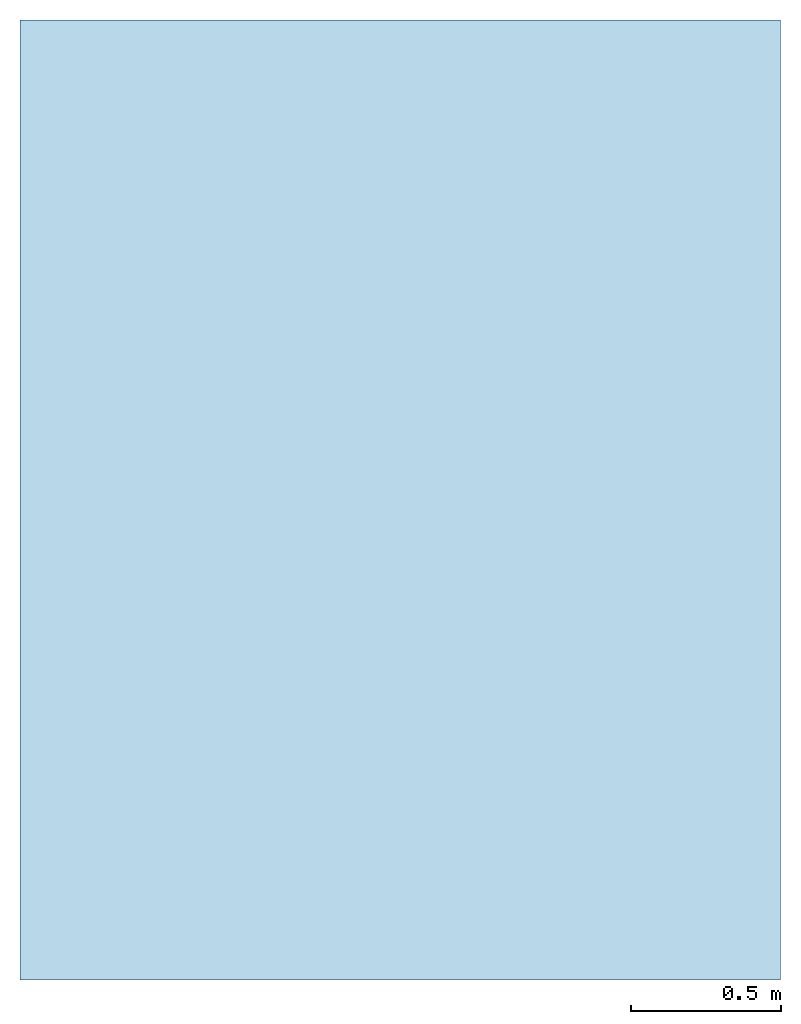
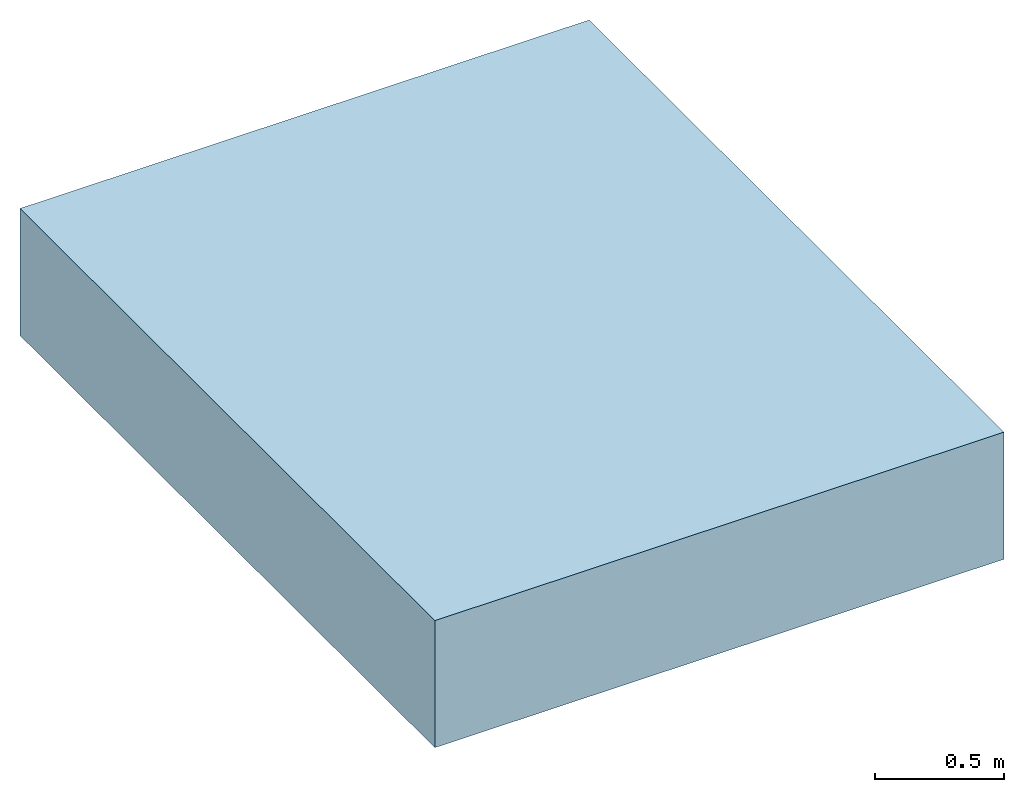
# One storey: 1 slab.
"""IFC2X3 building model written with IfcOpenShell, lengths in millimetres."""

from ifc_helpers import new_model, entity, si_unit, converted_unit, derived_unit, money_unit, direction, frame, origin_with_axes, place, context, subcontext, project, spatial, faceted_brep, material, type_object, element, save


model = new_model("IFC2X3")

# Units and contexts
model_context = context("Model", 3, precision=0.01, world=origin_with_axes(), true_north=direction((0.0, 1.0)))
body_context = subcontext(model_context, "Body", "Model", "MODEL_VIEW")
ifc_project = project(units=[si_unit("LENGTHUNIT", "METRE", prefix="MILLI"), si_unit("AREAUNIT", "SQUARE_METRE"), si_unit("VOLUMEUNIT", "CUBIC_METRE"), converted_unit("PLANEANGLEUNIT", "DEGREE", entity("IfcPlaneAngleMeasure", 0.0174532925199), si_unit("PLANEANGLEUNIT", "RADIAN"), dimensions=[0, 0, 0, 0, 0, 0, 0]), si_unit("SOLIDANGLEUNIT", "STERADIAN"), money_unit("EUR"), converted_unit("TIMEUNIT", "Year", entity("IfcTimeMeasure", 31556926.0), si_unit("TIMEUNIT", "SECOND"), dimensions=[0, 0, 1, 0, 0, 0, 0]), si_unit("MASSUNIT", "GRAM", prefix="KILO"), si_unit("THERMODYNAMICTEMPERATUREUNIT", "DEGREE_CELSIUS"), si_unit("LUMINOUSINTENSITYUNIT", "LUMEN"), si_unit("ENERGYUNIT", "JOULE", prefix="MEGA"), derived_unit("THERMALCONDUCTANCEUNIT", [(si_unit("POWERUNIT", "WATT"), 1), (si_unit("LENGTHUNIT", "METRE"), -1), (si_unit("THERMODYNAMICTEMPERATUREUNIT", "KELVIN"), -1)]), derived_unit("SPECIFICHEATCAPACITYUNIT", [(si_unit("ENERGYUNIT", "JOULE"), 1), (si_unit("MASSUNIT", "GRAM", prefix="KILO"), -1), (si_unit("THERMODYNAMICTEMPERATUREUNIT", "KELVIN"), -1)]), derived_unit("MASSDENSITYUNIT", [(si_unit("MASSUNIT", "GRAM", prefix="KILO"), 1), (si_unit("VOLUMEUNIT", "CUBIC_METRE"), -1)])], contexts=[model_context])

# Site, building, storey
site_placement = place(None, origin_with_axes())
site = spatial("IfcSite", under=ifc_project, at=site_placement, Name="KIRDE 14, ELVA", CompositionType="ELEMENT")
building_placement = place(site_placement, origin_with_axes())
building = spatial("IfcBuilding", under=site, at=building_placement, Name="PPA ja Päästeameti ühishoone", CompositionType="ELEMENT")
storey_placement = place(building_placement, frame((0.0, 0.0, 10700.0), z_axis=(0.0, 0.0, 1.0), x_axis=(1.0, 0.0, 0.0)))
storey = spatial("IfcBuildingStorey", under=building, at=storey_placement, Name="4. Story", CompositionType="ELEMENT", Elevation=10700.0)

# Slab
ifc_material = material(Name="Vahtpolüstüreen (4)")
slab_type = type_object("IfcSlabType", Name="Vahtpolüstüreen (4)", PredefinedType="ROOF")
slab_placement = place(storey_placement, frame((23607.9730785, 39729.5480046, -300.0), z_axis=(0.0, 0.0, 1.0), x_axis=(1.0, 0.0, 0.0)))
element("IfcSlab", 1, at=slab_placement, inside=storey, type_object=slab_type, material=ifc_material, Name="KATUSEKALDED", PredefinedType="ROOF", context=body_context, shape_type="Brep", body=[
    faceted_brep([(0.0, 3208.99981755, 600.0), (0.0, 0.0, 600.0), (2541.68188839, 0.0, 600.0), (2541.68188839, 3208.99981755, 600.0), (0.0, 0.0, 0.0), (0.0, 3208.99981755, 0.0), (2541.68188839, 0.0, 0.0), (2541.68188839, 3208.99981755, 0.0)], [[[0, 1, 2, 3]], [[4, 1, 0, 5]], [[6, 2, 1, 4]], [[7, 3, 2, 6]], [[5, 0, 3, 7]], [[5, 7, 6, 4]]]),
])

save(model, "model.ifc")
